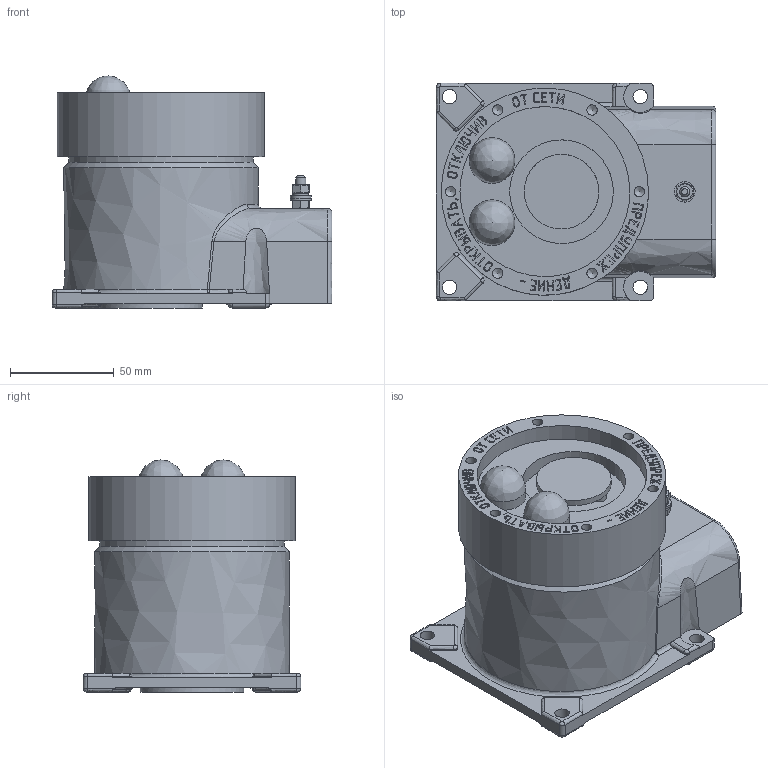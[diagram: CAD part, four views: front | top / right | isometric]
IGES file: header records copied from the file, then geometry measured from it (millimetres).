
Global section: file name: ExОПЗС алюминиевый М25; native system: Autodesk Inventor 2016; preprocessor: unknown; author: hudyakovak; date: 20180131.151308; units: millimetre
Bounding box: 135 x 105 x 112 mm (x, y, z)
Volume: 819574.7 mm3; surface area: 80654.1 mm2
Topology: 2 solids, 2 shells, 876 faces, 2364 edges, 1560 vertices
Faces by surface type: bspline 876
